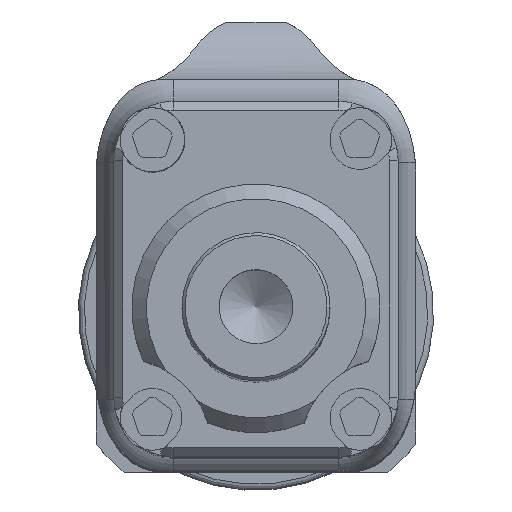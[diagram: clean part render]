
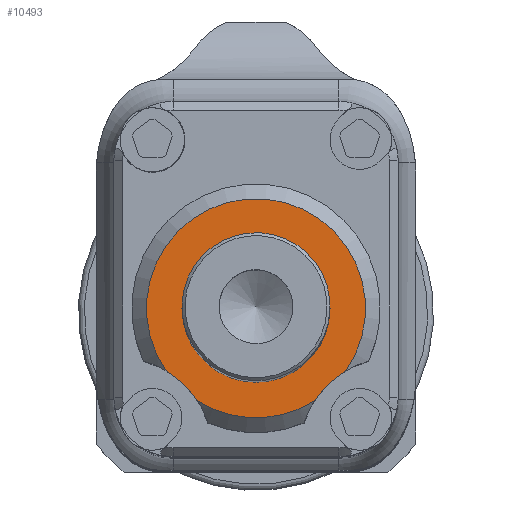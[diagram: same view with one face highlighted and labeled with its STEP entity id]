
A CAD part, top view. The second image highlights one B-rep face of the part: STEP entity #10493.
In plain terms, the highlighted planar face has unit normal (0, 0, 1) as drawn and (0, 0, -1) by its records, which use the part's own axes.
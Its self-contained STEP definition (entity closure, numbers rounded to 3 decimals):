
#2637 = EDGE_CURVE ( 'NONE', #19159, #51555, #43392, .T. ) ;
#5539 = CARTESIAN_POINT ( 'NONE',  ( 3.038, -1.912, -3.5 ) ) ;
#6381 = CIRCLE ( 'NONE', #48144, 3.7 ) ;
#6573 = FACE_BOUND ( 'NONE', #12775, .T. ) ;
#6922 = DIRECTION ( 'NONE',  ( -1., 0., 0. ) ) ;
#7158 = FACE_OUTER_BOUND ( 'NONE', #35043, .T. ) ;
#9246 = EDGE_CURVE ( 'NONE', #34817, #58453, #6381, .T. ) ;
#9975 = EDGE_CURVE ( 'NONE', #51555, #34817, #54169, .T. ) ;
#10493 = ADVANCED_FACE ( 'NONE', ( #7158, #6573 ), #15907, .T. ) ;
#11223 = ORIENTED_EDGE ( 'NONE', *, *, #9975, .T. ) ;
#11560 = CARTESIAN_POINT ( 'NONE',  ( 0., 0.2, -3.5 ) ) ;
#12379 = DIRECTION ( 'NONE',  ( -1., 0., 0. ) ) ;
#12775 = EDGE_LOOP ( 'NONE', ( #45139 ) ) ;
#14439 = AXIS2_PLACEMENT_3D ( 'NONE', #11560, #26140, #40141 ) ;
#15659 = DIRECTION ( 'NONE',  ( 0., 0., -1. ) ) ;
#15907 = PLANE ( 'NONE',  #14439 ) ;
#18098 = CARTESIAN_POINT ( 'NONE',  ( 0., 0.2, -3.5 ) ) ;
#18391 = CARTESIAN_POINT ( 'NONE',  ( -3.038, -1.912, -3.5 ) ) ;
#19159 = VERTEX_POINT ( 'NONE', #18391 ) ;
#21210 = DIRECTION ( 'NONE',  ( -1., 0., 0. ) ) ;
#22745 = CARTESIAN_POINT ( 'NONE',  ( -4.667, -4.667, -3.5 ) ) ;
#23481 = AXIS2_PLACEMENT_3D ( 'NONE', #22745, #41722, #28013 ) ;
#24090 = AXIS2_PLACEMENT_3D ( 'NONE', #53353, #25609, #6922 ) ;
#24454 = CIRCLE ( 'NONE', #23481, 3.2 ) ;
#24666 = CARTESIAN_POINT ( 'NONE',  ( 0., 0.2, -3.5 ) ) ;
#25609 = DIRECTION ( 'NONE',  ( 0., 0., -1. ) ) ;
#26140 = DIRECTION ( 'NONE',  ( 0., 0., -1. ) ) ;
#26527 = DIRECTION ( 'NONE',  ( 0., 0., -1. ) ) ;
#26596 = VERTEX_POINT ( 'NONE', #35618 ) ;
#28013 = DIRECTION ( 'NONE',  ( -1., 0., 0. ) ) ;
#29558 = EDGE_CURVE ( 'NONE', #19159, #58453, #24454, .T. ) ;
#34817 = VERTEX_POINT ( 'NONE', #57833 ) ;
#35043 = EDGE_LOOP ( 'NONE', ( #11223, #44051, #49444, #44969 ) ) ;
#35618 = CARTESIAN_POINT ( 'NONE',  ( -2.5, 0.2, -3.5 ) ) ;
#36635 = CARTESIAN_POINT ( 'NONE',  ( 4.667, -4.667, -3.5 ) ) ;
#37700 = CARTESIAN_POINT ( 'NONE',  ( -1.983, -2.924, -3.5 ) ) ;
#40141 = DIRECTION ( 'NONE',  ( -1., 0., 0. ) ) ;
#40218 = AXIS2_PLACEMENT_3D ( 'NONE', #36635, #50957, #12379 ) ;
#41722 = DIRECTION ( 'NONE',  ( 0., 0., -1. ) ) ;
#43392 = CIRCLE ( 'NONE', #51192, 3.7 ) ;
#44051 = ORIENTED_EDGE ( 'NONE', *, *, #9246, .T. ) ;
#44969 = ORIENTED_EDGE ( 'NONE', *, *, #2637, .T. ) ;
#45139 = ORIENTED_EDGE ( 'NONE', *, *, #51754, .F. ) ;
#46746 = DIRECTION ( 'NONE',  ( -1., 0., 0. ) ) ;
#48144 = AXIS2_PLACEMENT_3D ( 'NONE', #18098, #26527, #46746 ) ;
#49444 = ORIENTED_EDGE ( 'NONE', *, *, #29558, .F. ) ;
#50939 = CIRCLE ( 'NONE', #24090, 2.5 ) ;
#50957 = DIRECTION ( 'NONE',  ( 0., 0., 1. ) ) ;
#51192 = AXIS2_PLACEMENT_3D ( 'NONE', #24666, #15659, #21210 ) ;
#51555 = VERTEX_POINT ( 'NONE', #5539 ) ;
#51754 = EDGE_CURVE ( 'NONE', #26596, #26596, #50939, .T. ) ;
#53353 = CARTESIAN_POINT ( 'NONE',  ( 0., 0.2, -3.5 ) ) ;
#54169 = CIRCLE ( 'NONE', #40218, 3.2 ) ;
#57833 = CARTESIAN_POINT ( 'NONE',  ( 1.983, -2.924, -3.5 ) ) ;
#58453 = VERTEX_POINT ( 'NONE', #37700 ) ;
